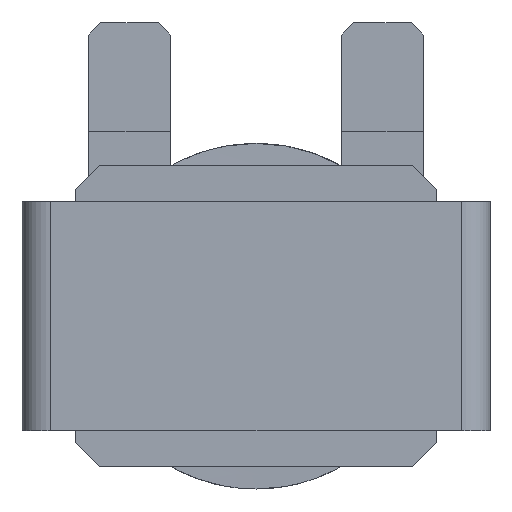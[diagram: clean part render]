
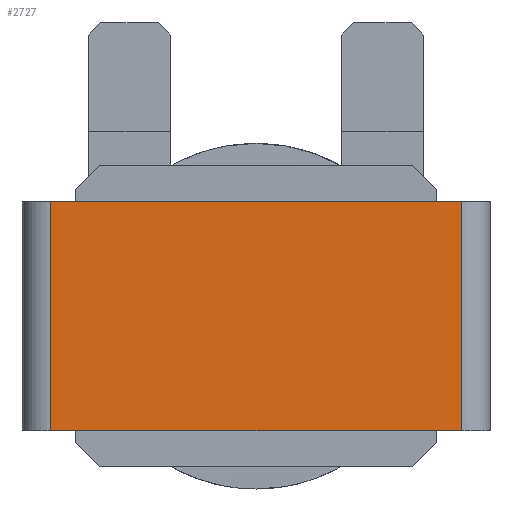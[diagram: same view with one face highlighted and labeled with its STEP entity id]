
A CAD part, front view. The second image highlights one B-rep face of the part: STEP entity #2727.
In plain terms, the highlighted planar face has unit normal (0, -1, 0).
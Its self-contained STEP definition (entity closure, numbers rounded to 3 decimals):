
#582 = CARTESIAN_POINT ( 'NONE',  ( -17.05, 83.242, 9.525 ) ) ;
#1147 = DIRECTION ( 'NONE',  ( 0., 0., -1. ) ) ;
#2203 = FACE_OUTER_BOUND ( 'NONE', #5525, .T. ) ;
#2601 = DIRECTION ( 'NONE',  ( 1., 0., 0. ) ) ;
#2727 = ADVANCED_FACE ( 'NONE', ( #2203 ), #16317, .F. ) ;
#2794 = VERTEX_POINT ( 'NONE', #2961 ) ;
#2961 = CARTESIAN_POINT ( 'NONE',  ( -17.05, 83.242, 9.525 ) ) ;
#3259 = CARTESIAN_POINT ( 'NONE',  ( -17.05, 83.242, -9.525 ) ) ;
#4050 = CARTESIAN_POINT ( 'NONE',  ( 17.05, 83.242, 9.525 ) ) ;
#4163 = CARTESIAN_POINT ( 'NONE',  ( -17.05, 83.242, 9.525 ) ) ;
#4444 = DIRECTION ( 'NONE',  ( 0., 0., 1. ) ) ;
#4845 = VERTEX_POINT ( 'NONE', #4050 ) ;
#4855 = EDGE_CURVE ( 'NONE', #4845, #14678, #9782, .T. ) ;
#4858 = VECTOR ( 'NONE', #9218, 1000. ) ;
#5286 = ORIENTED_EDGE ( 'NONE', *, *, #4855, .F. ) ;
#5525 = EDGE_LOOP ( 'NONE', ( #14877, #5286, #8807, #14965 ) ) ;
#5739 = VERTEX_POINT ( 'NONE', #12097 ) ;
#7376 = CARTESIAN_POINT ( 'NONE',  ( -17.05, 83.242, 9.525 ) ) ;
#8000 = EDGE_CURVE ( 'NONE', #2794, #5739, #16969, .T. ) ;
#8287 = LINE ( 'NONE', #4163, #13085 ) ;
#8305 = VECTOR ( 'NONE', #13727, 1000. ) ;
#8807 = ORIENTED_EDGE ( 'NONE', *, *, #10828, .F. ) ;
#9218 = DIRECTION ( 'NONE',  ( 1., 0., 0. ) ) ;
#9602 = AXIS2_PLACEMENT_3D ( 'NONE', #7376, #14788, #4444 ) ;
#9782 = LINE ( 'NONE', #9950, #16843 ) ;
#9950 = CARTESIAN_POINT ( 'NONE',  ( 17.05, 83.242, 9.525 ) ) ;
#10828 = EDGE_CURVE ( 'NONE', #2794, #4845, #8287, .T. ) ;
#11066 = EDGE_CURVE ( 'NONE', #5739, #14678, #16490, .T. ) ;
#12097 = CARTESIAN_POINT ( 'NONE',  ( -17.05, 83.242, -9.525 ) ) ;
#13085 = VECTOR ( 'NONE', #2601, 1000. ) ;
#13727 = DIRECTION ( 'NONE',  ( 0., 0., -1. ) ) ;
#14678 = VERTEX_POINT ( 'NONE', #18176 ) ;
#14788 = DIRECTION ( 'NONE',  ( 0., 1., 0. ) ) ;
#14877 = ORIENTED_EDGE ( 'NONE', *, *, #11066, .T. ) ;
#14965 = ORIENTED_EDGE ( 'NONE', *, *, #8000, .T. ) ;
#16317 = PLANE ( 'NONE',  #9602 ) ;
#16490 = LINE ( 'NONE', #3259, #4858 ) ;
#16843 = VECTOR ( 'NONE', #1147, 1000. ) ;
#16969 = LINE ( 'NONE', #582, #8305 ) ;
#18176 = CARTESIAN_POINT ( 'NONE',  ( 17.05, 83.242, -9.525 ) ) ;
